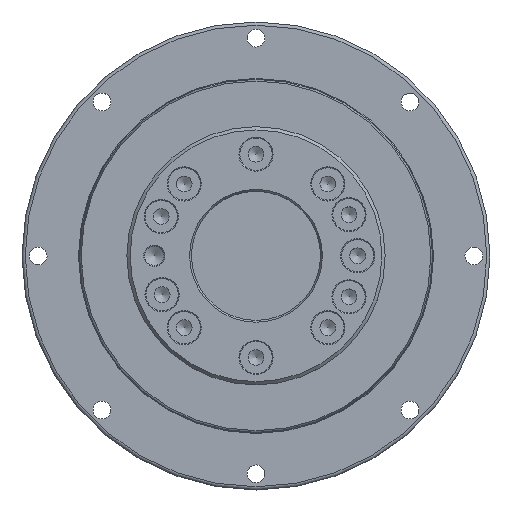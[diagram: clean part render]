
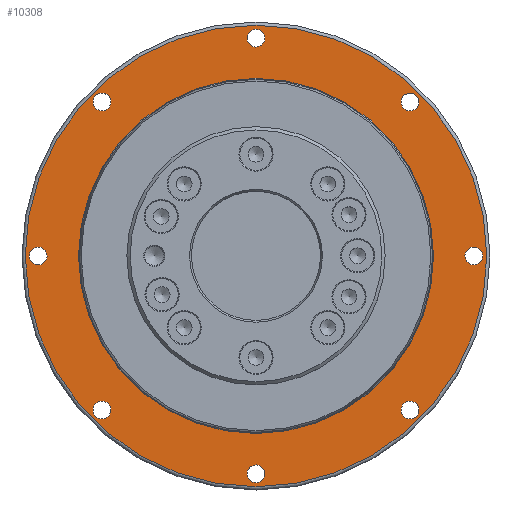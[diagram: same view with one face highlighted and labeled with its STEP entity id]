
A CAD part, top view. The second image highlights one B-rep face of the part: STEP entity #10308.
In plain terms, the highlighted planar face has unit normal (0, 0, 1).
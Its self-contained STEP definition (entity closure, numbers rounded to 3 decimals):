
#10044=CARTESIAN_POINT('',(49.674,45.785,102.9));
#10045=VERTEX_POINT('',#10044);
#10046=CARTESIAN_POINT('',(47.73,47.73,102.9));
#10047=DIRECTION('',(0.,0.,-1.0));
#10048=DIRECTION('',(-0.707,0.707,0.));
#10049=AXIS2_PLACEMENT_3D('',#10046,#10047,#10048);
#10050=CIRCLE('',#10049,2.75);
#10051=EDGE_CURVE('',#10045,#10045,#10050,.T.);
#10118=CARTESIAN_POINT('',(-55.,0.,102.9));
#10119=VERTEX_POINT('',#10118);
#10120=CARTESIAN_POINT('',(0.,0.,102.9));
#10121=DIRECTION('',(0.0,0.0,-1.0));
#10122=DIRECTION('',(1.0,0.0,0.0));
#10123=AXIS2_PLACEMENT_3D('',#10120,#10121,#10122);
#10124=CIRCLE('',#10123,55.0);
#10125=EDGE_CURVE('',#10119,#10119,#10124,.T.);
#10209=CARTESIAN_POINT('',(0.,0.,102.9));
#10210=DIRECTION('',(0.0,0.0,-1.0));
#10211=DIRECTION('',(1.0,0.0,0.0));
#10212=AXIS2_PLACEMENT_3D('',#10209,#10210,#10211);
#10213=PLANE('',#10212);
#10214=CARTESIAN_POINT('',(-71.5,0.,102.9));
#10215=VERTEX_POINT('',#10214);
#10216=CARTESIAN_POINT('',(0.,0.,102.9));
#10217=DIRECTION('',(0.0,0.0,-1.0));
#10218=DIRECTION('',(1.0,0.0,0.0));
#10219=AXIS2_PLACEMENT_3D('',#10216,#10217,#10218);
#10220=CIRCLE('',#10219,71.5);
#10221=EDGE_CURVE('',#10215,#10215,#10220,.T.);
#10222=ORIENTED_EDGE('',*,*,#10221,.F.);
#10223=EDGE_LOOP('',(#10222));
#10224=FACE_OUTER_BOUND('',#10223,.T.);
#10225=ORIENTED_EDGE('',*,*,#10125,.T.);
#10226=EDGE_LOOP('',(#10225));
#10227=FACE_BOUND('',#10226,.T.);
#10228=CARTESIAN_POINT('',(-2.75,-67.5,102.9));
#10229=VERTEX_POINT('',#10228);
#10230=CARTESIAN_POINT('',(0.,-67.5,102.9));
#10231=DIRECTION('',(0.0,0.0,-1.0));
#10232=DIRECTION('',(1.0,0.0,0.0));
#10233=AXIS2_PLACEMENT_3D('',#10230,#10231,#10232);
#10234=CIRCLE('',#10233,2.75);
#10235=EDGE_CURVE('',#10229,#10229,#10234,.T.);
#10236=ORIENTED_EDGE('',*,*,#10235,.T.);
#10237=EDGE_LOOP('',(#10236));
#10238=FACE_BOUND('',#10237,.T.);
#10239=CARTESIAN_POINT('',(45.785,-49.674,102.9));
#10240=VERTEX_POINT('',#10239);
#10241=CARTESIAN_POINT('',(47.73,-47.73,102.9));
#10242=DIRECTION('',(0.,0.,-1.0));
#10243=DIRECTION('',(0.707,0.707,0.));
#10244=AXIS2_PLACEMENT_3D('',#10241,#10242,#10243);
#10245=CIRCLE('',#10244,2.75);
#10246=EDGE_CURVE('',#10240,#10240,#10245,.T.);
#10247=ORIENTED_EDGE('',*,*,#10246,.T.);
#10248=EDGE_LOOP('',(#10247));
#10249=FACE_BOUND('',#10248,.T.);
#10250=CARTESIAN_POINT('',(67.5,-2.75,102.9));
#10251=VERTEX_POINT('',#10250);
#10252=CARTESIAN_POINT('',(67.5,0.,102.9));
#10253=DIRECTION('',(0.0,0.0,-1.0));
#10254=DIRECTION('',(0.0,1.0,0.0));
#10255=AXIS2_PLACEMENT_3D('',#10252,#10253,#10254);
#10256=CIRCLE('',#10255,2.75);
#10257=EDGE_CURVE('',#10251,#10251,#10256,.T.);
#10258=ORIENTED_EDGE('',*,*,#10257,.T.);
#10259=EDGE_LOOP('',(#10258));
#10260=FACE_BOUND('',#10259,.T.);
#10261=ORIENTED_EDGE('',*,*,#10051,.T.);
#10262=EDGE_LOOP('',(#10261));
#10263=FACE_BOUND('',#10262,.T.);
#10264=CARTESIAN_POINT('',(2.75,67.5,102.9));
#10265=VERTEX_POINT('',#10264);
#10266=CARTESIAN_POINT('',(0.,67.5,102.9));
#10267=DIRECTION('',(0.0,0.0,-1.0));
#10268=DIRECTION('',(-1.0,0.0,0.0));
#10269=AXIS2_PLACEMENT_3D('',#10266,#10267,#10268);
#10270=CIRCLE('',#10269,2.75);
#10271=EDGE_CURVE('',#10265,#10265,#10270,.T.);
#10272=ORIENTED_EDGE('',*,*,#10271,.T.);
#10273=EDGE_LOOP('',(#10272));
#10274=FACE_BOUND('',#10273,.T.);
#10275=CARTESIAN_POINT('',(-45.785,49.674,102.9));
#10276=VERTEX_POINT('',#10275);
#10277=CARTESIAN_POINT('',(-47.73,47.73,102.9));
#10278=DIRECTION('',(0.,0.,-1.0));
#10279=DIRECTION('',(-0.707,-0.707,0.));
#10280=AXIS2_PLACEMENT_3D('',#10277,#10278,#10279);
#10281=CIRCLE('',#10280,2.75);
#10282=EDGE_CURVE('',#10276,#10276,#10281,.T.);
#10283=ORIENTED_EDGE('',*,*,#10282,.T.);
#10284=EDGE_LOOP('',(#10283));
#10285=FACE_BOUND('',#10284,.T.);
#10286=CARTESIAN_POINT('',(-67.5,2.75,102.9));
#10287=VERTEX_POINT('',#10286);
#10288=CARTESIAN_POINT('',(-67.5,0.,102.9));
#10289=DIRECTION('',(0.0,0.0,-1.0));
#10290=DIRECTION('',(0.0,-1.0,0.0));
#10291=AXIS2_PLACEMENT_3D('',#10288,#10289,#10290);
#10292=CIRCLE('',#10291,2.75);
#10293=EDGE_CURVE('',#10287,#10287,#10292,.T.);
#10294=ORIENTED_EDGE('',*,*,#10293,.T.);
#10295=EDGE_LOOP('',(#10294));
#10296=FACE_BOUND('',#10295,.T.);
#10297=CARTESIAN_POINT('',(-49.674,-45.785,102.9));
#10298=VERTEX_POINT('',#10297);
#10299=CARTESIAN_POINT('',(-47.73,-47.73,102.9));
#10300=DIRECTION('',(0.,0.,-1.0));
#10301=DIRECTION('',(0.707,-0.707,0.));
#10302=AXIS2_PLACEMENT_3D('',#10299,#10300,#10301);
#10303=CIRCLE('',#10302,2.75);
#10304=EDGE_CURVE('',#10298,#10298,#10303,.T.);
#10305=ORIENTED_EDGE('',*,*,#10304,.T.);
#10306=EDGE_LOOP('',(#10305));
#10307=FACE_BOUND('',#10306,.T.);
#10308=ADVANCED_FACE('',(#10224,#10227,#10238,#10249,#10260,#10263,#10274,#10285,#10296,#10307),#10213,.F.);
